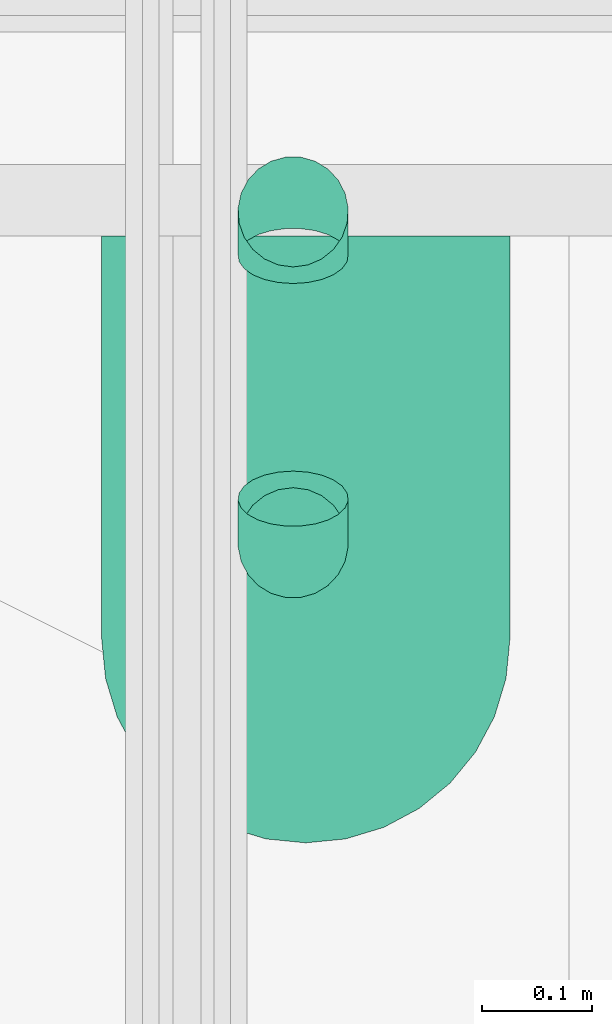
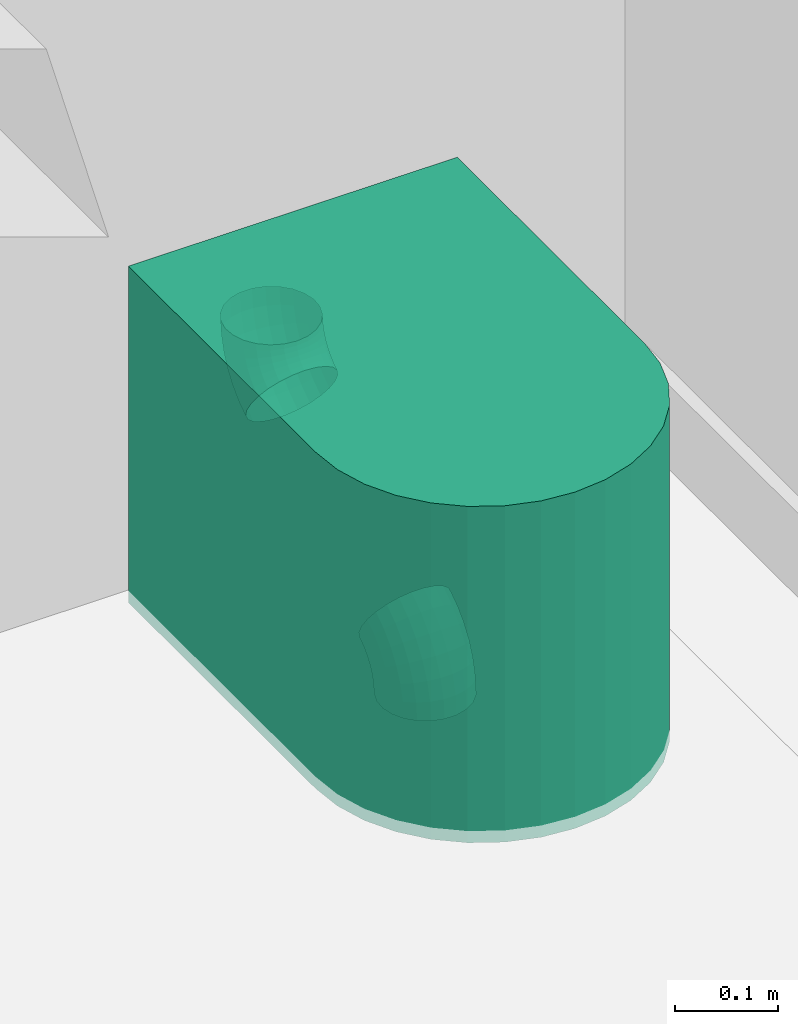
# One storey, part 164 of 169: 2 flow fittings, 1 flow terminal.
"""IFC2X3 building model written with IfcOpenShell, lengths in metres."""

from ifc_helpers import new_model, entity, si_unit, converted_unit, derived_unit, money_unit, direction, frame, origin_with_axes, place, context, subcontext, project, spatial, open_shell, faceted_brep, surface_model, material, type_object, element, save


model = new_model("IFC2X3")

# Units and contexts
model_context = context("Model", 3, precision=1e-05, world=origin_with_axes(), true_north=direction((0.0, 1.0)))
body_context = subcontext(model_context, "Body", "Model", "MODEL_VIEW", scale=1.0)
ifc_project = project(units=[si_unit("LENGTHUNIT", "METRE"), si_unit("AREAUNIT", "SQUARE_METRE"), si_unit("VOLUMEUNIT", "CUBIC_METRE"), si_unit("ABSORBEDDOSEUNIT", "GRAY"), si_unit("AMOUNTOFSUBSTANCEUNIT", "MOLE"), si_unit("DOSEEQUIVALENTUNIT", "SIEVERT"), si_unit("ELECTRICCAPACITANCEUNIT", "FARAD"), si_unit("ELECTRICCHARGEUNIT", "COULOMB"), si_unit("ELECTRICCONDUCTANCEUNIT", "SIEMENS"), si_unit("ELECTRICCURRENTUNIT", "AMPERE"), si_unit("ELECTRICRESISTANCEUNIT", "OHM"), si_unit("ELECTRICVOLTAGEUNIT", "VOLT"), si_unit("ENERGYUNIT", "JOULE"), si_unit("FORCEUNIT", "NEWTON"), si_unit("FREQUENCYUNIT", "HERTZ"), si_unit("ILLUMINANCEUNIT", "LUX"), si_unit("INDUCTANCEUNIT", "HENRY"), si_unit("LUMINOUSFLUXUNIT", "LUMEN"), si_unit("LUMINOUSINTENSITYUNIT", "CANDELA"), si_unit("MAGNETICFLUXDENSITYUNIT", "TESLA"), si_unit("MAGNETICFLUXUNIT", "WEBER"), si_unit("MASSUNIT", "GRAM"), converted_unit("PLANEANGLEUNIT", "degree", entity("IfcReal", 0.0174532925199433), si_unit("PLANEANGLEUNIT", "RADIAN"), dimensions=[0, 0, 0, 0, 0, 0, 0]), si_unit("POWERUNIT", "WATT"), si_unit("PRESSUREUNIT", "PASCAL"), si_unit("RADIOACTIVITYUNIT", "BECQUEREL"), si_unit("SOLIDANGLEUNIT", "STERADIAN"), si_unit("THERMODYNAMICTEMPERATUREUNIT", "KELVIN"), si_unit("TIMEUNIT", "SECOND"), derived_unit("ACCELERATIONUNIT", [(si_unit("LENGTHUNIT", "METRE"), 1), (si_unit("TIMEUNIT", "SECOND"), -2)]), derived_unit("ANGULARVELOCITYUNIT", [(converted_unit("PLANEANGLEUNIT", "degree", entity("IfcReal", 0.0174532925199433), si_unit("PLANEANGLEUNIT", "RADIAN"), dimensions=[0, 0, 0, 0, 0, 0, 0]), 1), (si_unit("TIMEUNIT", "SECOND"), -1)]), derived_unit("CURVATUREUNIT", [(converted_unit("PLANEANGLEUNIT", "degree", entity("IfcReal", 0.0174532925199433), si_unit("PLANEANGLEUNIT", "RADIAN"), dimensions=[0, 0, 0, 0, 0, 0, 0]), 1), (si_unit("LENGTHUNIT", "METRE"), -1)]), derived_unit("DYNAMICVISCOSITYUNIT", [(si_unit("PRESSUREUNIT", "PASCAL"), 1), (si_unit("TIMEUNIT", "SECOND"), 1)]), derived_unit("HEATFLUXDENSITYUNIT", [(si_unit("POWERUNIT", "WATT"), 1), (si_unit("LENGTHUNIT", "METRE"), -2)]), derived_unit("HEATINGVALUEUNIT", [(si_unit("ENERGYUNIT", "JOULE"), 1), (si_unit("MASSUNIT", "GRAM"), -1)]), derived_unit("INTEGERCOUNTRATEUNIT", [(si_unit("TIMEUNIT", "SECOND"), -1)]), derived_unit("IONCONCENTRATIONUNIT", [(si_unit("MASSUNIT", "GRAM"), 1), (si_unit("VOLUMEUNIT", "CUBIC_METRE"), -1)]), derived_unit("ISOTHERMALMOISTURECAPACITYUNIT", [(si_unit("VOLUMEUNIT", "CUBIC_METRE"), 1), (si_unit("MASSUNIT", "GRAM"), -1)]), derived_unit("KINEMATICVISCOSITYUNIT", [(si_unit("AREAUNIT", "SQUARE_METRE"), 1), (si_unit("TIMEUNIT", "SECOND"), -1)]), derived_unit("LINEARFORCEUNIT", [(si_unit("FORCEUNIT", "NEWTON"), 1), (si_unit("LENGTHUNIT", "METRE"), -1)]), derived_unit("LINEARMOMENTUNIT", [(si_unit("FORCEUNIT", "NEWTON"), 1), (si_unit("LENGTHUNIT", "METRE"), -1)]), derived_unit("LINEARSTIFFNESSUNIT", [(si_unit("FORCEUNIT", "NEWTON"), 1), (si_unit("LENGTHUNIT", "METRE"), -1)]), derived_unit("LINEARVELOCITYUNIT", [(si_unit("LENGTHUNIT", "METRE"), 1), (si_unit("TIMEUNIT", "SECOND"), -1)]), derived_unit("LUMINOUSINTENSITYDISTRIBUTIONUNIT", [(si_unit("LUMINOUSINTENSITYUNIT", "CANDELA"), 1), (si_unit("LUMINOUSFLUXUNIT", "LUMEN"), -1)]), derived_unit("MASSDENSITYUNIT", [(si_unit("MASSUNIT", "GRAM"), 1), (si_unit("VOLUMEUNIT", "CUBIC_METRE"), -1)]), derived_unit("MASSFLOWRATEUNIT", [(si_unit("MASSUNIT", "GRAM"), 1), (si_unit("TIMEUNIT", "SECOND"), -1)]), derived_unit("MASSPERLENGTHUNIT", [(si_unit("MASSUNIT", "GRAM"), 1), (si_unit("LENGTHUNIT", "METRE"), -1)]), derived_unit("MODULUSOFELASTICITYUNIT", [(si_unit("FORCEUNIT", "NEWTON"), 1), (si_unit("AREAUNIT", "SQUARE_METRE"), -1)]), derived_unit("MODULUSOFLINEARSUBGRADEREACTIONUNIT", [(si_unit("FORCEUNIT", "NEWTON"), 1), (si_unit("LENGTHUNIT", "METRE"), -2)]), derived_unit("MODULUSOFROTATIONALSUBGRADEREACTIONUNIT", [(si_unit("FORCEUNIT", "NEWTON"), 1), (si_unit("LENGTHUNIT", "METRE"), 1)]), derived_unit("MODULUSOFSUBGRADEREACTIONUNIT", [(si_unit("FORCEUNIT", "NEWTON"), 1), (si_unit("VOLUMEUNIT", "CUBIC_METRE"), -1)]), derived_unit("MOISTUREDIFFUSIVITYUNIT", [(si_unit("VOLUMEUNIT", "CUBIC_METRE"), 1), (si_unit("TIMEUNIT", "SECOND"), -1)]), derived_unit("MOLECULARWEIGHTUNIT", [(si_unit("MASSUNIT", "GRAM"), 1), (si_unit("AMOUNTOFSUBSTANCEUNIT", "MOLE"), -1)]), derived_unit("PLANARFORCEUNIT", [(si_unit("FORCEUNIT", "NEWTON"), 1), (si_unit("LENGTHUNIT", "METRE"), -2)]), derived_unit("ROTATIONALFREQUENCYUNIT", [(si_unit("TIMEUNIT", "SECOND"), -1)]), derived_unit("ROTATIONALMASSUNIT", [(si_unit("MASSUNIT", "GRAM"), 1), (si_unit("LENGTHUNIT", "METRE"), 2)]), derived_unit("ROTATIONALSTIFFNESSUNIT", [(si_unit("FORCEUNIT", "NEWTON"), 1), (si_unit("LENGTHUNIT", "METRE"), 1), (converted_unit("PLANEANGLEUNIT", "degree", entity("IfcReal", 0.0174532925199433), si_unit("PLANEANGLEUNIT", "RADIAN"), dimensions=[0, 0, 0, 0, 0, 0, 0]), -1)]), derived_unit("SECTIONAREAINTEGRALUNIT", [(si_unit("LENGTHUNIT", "METRE"), 5)]), derived_unit("SECTIONMODULUSUNIT", [(si_unit("LENGTHUNIT", "METRE"), 3)]), derived_unit("SHEARMODULUSUNIT", [(si_unit("FORCEUNIT", "NEWTON"), 1), (si_unit("AREAUNIT", "SQUARE_METRE"), -1)]), derived_unit("SOUNDPOWERUNIT", [(si_unit("ENERGYUNIT", "JOULE"), 1), (si_unit("TIMEUNIT", "SECOND"), -1)]), derived_unit("SPECIFICHEATCAPACITYUNIT", [(si_unit("FORCEUNIT", "NEWTON"), 1), (si_unit("MASSUNIT", "GRAM"), -1), (si_unit("THERMODYNAMICTEMPERATUREUNIT", "KELVIN"), -1)]), derived_unit("TEMPERATUREGRADIENTUNIT", [(si_unit("THERMODYNAMICTEMPERATUREUNIT", "KELVIN"), 1), (si_unit("LENGTHUNIT", "METRE"), -1)]), derived_unit("THERMALADMITTANCEUNIT", [(si_unit("POWERUNIT", "WATT"), 1), (si_unit("AREAUNIT", "SQUARE_METRE"), -1), (si_unit("THERMODYNAMICTEMPERATUREUNIT", "KELVIN"), -1)]), derived_unit("THERMALCONDUCTANCEUNIT", [(si_unit("POWERUNIT", "WATT"), 1), (si_unit("LENGTHUNIT", "METRE"), -1), (si_unit("THERMODYNAMICTEMPERATUREUNIT", "KELVIN"), -1)]), derived_unit("THERMALEXPANSIONCOEFFICIENTUNIT", [(si_unit("THERMODYNAMICTEMPERATUREUNIT", "KELVIN"), -1)]), derived_unit("THERMALRESISTANCEUNIT", [(si_unit("AREAUNIT", "SQUARE_METRE"), 1), (si_unit("POWERUNIT", "WATT"), -1)]), derived_unit("THERMALTRANSMITTANCEUNIT", [(si_unit("POWERUNIT", "WATT"), 1), (si_unit("AREAUNIT", "SQUARE_METRE"), -1), (si_unit("THERMODYNAMICTEMPERATUREUNIT", "KELVIN"), -1)]), derived_unit("TORQUEUNIT", [(si_unit("FORCEUNIT", "NEWTON"), 1), (si_unit("LENGTHUNIT", "METRE"), 1)]), derived_unit("VAPORPERMEABILITYUNIT", [(si_unit("MASSUNIT", "GRAM"), 1), (si_unit("TIMEUNIT", "SECOND"), -1)]), derived_unit("VOLUMETRICFLOWRATEUNIT", [(si_unit("VOLUMEUNIT", "CUBIC_METRE"), 1), (si_unit("TIMEUNIT", "SECOND"), -1)]), derived_unit("WARPINGCONSTANTUNIT", [(si_unit("LENGTHUNIT", "METRE"), 6)]), derived_unit("WARPINGMOMENTUNIT", [(si_unit("FORCEUNIT", "NEWTON"), 1), (si_unit("LENGTHUNIT", "METRE"), 2)]), money_unit("GBP")], contexts=[model_context])

# Site, building, storey, space
site_placement = place(None, origin_with_axes())
site = spatial("IfcSite", under=ifc_project, at=site_placement, Name="Site", CompositionType="ELEMENT")
building_placement = place(site_placement, origin_with_axes())
building = spatial("IfcBuilding", under=site, at=building_placement, Name="Building01", CompositionType="ELEMENT")
storey_placement = place(building_placement, frame((0.0, 0.0, 5.15), z_axis=(0.0, 0.0, 1.0), x_axis=(1.0, 0.0, 0.0)))
storey = spatial("IfcBuildingStorey", under=building, at=storey_placement, Name="1F", CompositionType="ELEMENT", Elevation=5.15)
space_1_placement = place(storey_placement, frame((20.122661, 7.25, 0.017975), z_axis=(0.0, 0.0, 1.0), x_axis=(1.0, 0.0, 0.0)))
space_1 = spatial("IfcSpace", under=storey, at=space_1_placement, Name="bath", CompositionType="ELEMENT", InteriorOrExteriorSpace="NOTDEFINED")

# Flow fitting
ifc_material = material(Name="M_BSUK_ColdWater")
pipe_fitting_type = type_object("IfcPipeFittingType", Name="M-BmpElbow-DefaultElbow", PredefinedType="BEND")
placement = place(building_placement, origin_with_axes())
flow_fitting_1_placement = place(placement, frame((22.076661, 8.116912, 5.151637), z_axis=(0.0, -1.0, 0.0), x_axis=(0.0, 0.0, 1.0)))
element("IfcFlowFitting", 1, at=flow_fitting_1_placement, inside=space_1, type_object=pipe_fitting_type, material=ifc_material, Name="M-BmpElbow-DefaultElbow", ObjectType="M-BmpElbow-DefaultElbow", context=body_context, shape_type="SurfaceModel", body=[
    surface_model("IfcShellBasedSurfaceModel", [(0.005531, -0.01349, -0.04863), (0.0, -0.01349, -0.048146), (0.0, 0.0, -0.05), (0.005209, 0.0, -0.050456), (0.010895, -0.01349, -0.050067), (0.010261, 0.0, -0.051809), (0.015927, -0.01349, -0.052414), (0.015, 0.0, -0.054019), (0.020475, -0.01349, -0.055598), (0.019284, 0.0, -0.057019), (0.024402, -0.01349, -0.059525), (0.022981, 0.0, -0.060716), (0.027586, -0.01349, -0.064073), (0.025981, 0.0, -0.065), (0.006473, -0.025979, -0.043287), (0.0, -0.025979, -0.042721), (0.01275, -0.025979, -0.044969), (0.01864, -0.025979, -0.047715), (0.023962, -0.025979, -0.051443), (0.028557, -0.025979, -0.056038), (0.032285, -0.025979, -0.06136), (0.007966, -0.036542, -0.034825), (0.0, -0.036542, -0.034128), (0.015689, -0.036542, -0.036894), (0.022936, -0.036542, -0.040273), (0.029486, -0.036542, -0.04486), (0.03514, -0.036542, -0.050514), (0.039727, -0.036542, -0.057064), (0.009897, -0.044394, -0.023869), (0.0, -0.044394, -0.023003), (0.019494, -0.044394, -0.026441), (0.028498, -0.044394, -0.030639), (0.036637, -0.044394, -0.036338), (0.043662, -0.044394, -0.043363), (0.049361, -0.044394, -0.051502), (0.012125, -0.048954, -0.011234), (0.0, -0.048954, -0.010173), (0.023882, -0.048954, -0.014384), (0.034914, -0.048954, -0.019528), (0.044884, -0.048954, -0.026509), (0.053491, -0.048954, -0.035116), (0.060472, -0.048954, -0.045086), (0.014484, -0.049883, 0.002145), (0.0, -0.049883, 0.003412), (0.028529, -0.049883, -0.001618), (0.041706, -0.049883, -0.007763), (0.053616, -0.049883, -0.016103), (0.063897, -0.049883, -0.026384), (0.072237, -0.049883, -0.038294), (0.016799, -0.047113, 0.015274), (0.0, -0.047113, 0.016744), (0.033088, -0.047113, 0.01091), (0.048372, -0.047113, 0.003783), (0.062186, -0.047113, -0.00589), (0.07411, -0.047113, -0.017814), (0.083783, -0.047113, -0.031628), (0.018899, -0.040848, 0.027181), (0.0, -0.040848, 0.028834), (0.037223, -0.040848, 0.022271), (0.054417, -0.040848, 0.014253), (0.069957, -0.040848, 0.003372), (0.083372, -0.040848, -0.010043), (0.094253, -0.040848, -0.025583), (0.020627, -0.031554, 0.036981), (0.0, -0.031554, 0.038786), (0.040627, -0.031554, 0.031622), (0.059393, -0.031554, 0.022871), (0.076354, -0.031554, 0.010995), (0.090995, -0.031554, -0.003646), (0.102871, -0.031554, -0.020607), (0.021855, -0.01992, 0.043948), (0.0, -0.01992, 0.045861), (0.043047, -0.01992, 0.03827), (0.06293, -0.01992, 0.028998), (0.080902, -0.01992, 0.016415), (0.096415, -0.01992, 0.000902), (0.108998, -0.01992, -0.01707), (0.022493, -0.006808, 0.047566), (0.0, -0.006808, 0.049534), (0.044303, -0.006808, 0.041722), (0.064767, -0.006808, 0.03218), (0.083263, -0.006808, 0.019229), (0.099229, -0.006808, 0.003263), (0.11218, -0.006808, -0.015233), (0.022493, 0.006808, 0.047566), (0.0, 0.006808, 0.049534), (0.044303, 0.006808, 0.041722), (0.064767, 0.006808, 0.03218), (0.083263, 0.006808, 0.019229), (0.099229, 0.006808, 0.003263), (0.11218, 0.006808, -0.015233), (0.021855, 0.01992, 0.043948), (0.0, 0.01992, 0.045861), (0.043047, 0.01992, 0.03827), (0.06293, 0.01992, 0.028998), (0.080902, 0.01992, 0.016415), (0.096415, 0.01992, 0.000902), (0.108998, 0.01992, -0.01707), (0.020627, 0.031554, 0.036981), (0.0, 0.031554, 0.038786), (0.040627, 0.031554, 0.031622), (0.059393, 0.031554, 0.022871), (0.076354, 0.031554, 0.010995), (0.090995, 0.031554, -0.003646), (0.102871, 0.031554, -0.020607), (0.018899, 0.040848, 0.027181), (0.0, 0.040848, 0.028834), (0.037223, 0.040848, 0.022271), (0.054417, 0.040848, 0.014253), (0.069957, 0.040848, 0.003372), (0.083372, 0.040848, -0.010043), (0.094253, 0.040848, -0.025583), (0.016799, 0.047113, 0.015274), (0.0, 0.047113, 0.016744), (0.033088, 0.047113, 0.01091), (0.048372, 0.047113, 0.003783), (0.062186, 0.047113, -0.00589), (0.07411, 0.047113, -0.017814), (0.083783, 0.047113, -0.031628), (0.014484, 0.049883, 0.002145), (0.0, 0.049883, 0.003412), (0.028529, 0.049883, -0.001618), (0.041706, 0.049883, -0.007763), (0.053616, 0.049883, -0.016103), (0.063897, 0.049883, -0.026384), (0.072237, 0.049883, -0.038294), (0.012125, 0.048954, -0.011234), (0.0, 0.048954, -0.010173), (0.023882, 0.048954, -0.014384), (0.034914, 0.048954, -0.019528), (0.044884, 0.048954, -0.026509), (0.053491, 0.048954, -0.035116), (0.060472, 0.048954, -0.045086), (0.009897, 0.044394, -0.023869), (0.0, 0.044394, -0.023003), (0.019494, 0.044394, -0.026441), (0.028498, 0.044394, -0.030639), (0.036637, 0.044394, -0.036338), (0.043662, 0.044394, -0.043363), (0.049361, 0.044394, -0.051502), (0.007966, 0.036542, -0.034825), (0.0, 0.036542, -0.034128), (0.015689, 0.036542, -0.036894), (0.022936, 0.036542, -0.040273), (0.029486, 0.036542, -0.04486), (0.03514, 0.036542, -0.050514), (0.039727, 0.036542, -0.057064), (0.006473, 0.025979, -0.043287), (0.0, 0.025979, -0.042721), (0.01275, 0.025979, -0.044969), (0.01864, 0.025979, -0.047715), (0.023962, 0.025979, -0.051443), (0.028557, 0.025979, -0.056038), (0.032285, 0.025979, -0.06136), (0.005531, 0.01349, -0.04863), (0.0, 0.01349, -0.048146), (0.010895, 0.01349, -0.050067), (0.015927, 0.01349, -0.052414), (0.020475, 0.01349, -0.055598), (0.024402, 0.01349, -0.059525), (0.027586, 0.01349, -0.064073)], [open_shell([[[0, 1, 2, 3]], [[4, 0, 3, 5]], [[6, 4, 5, 7]], [[8, 6, 7, 9]], [[10, 8, 9, 11]], [[12, 10, 11, 13]], [[14, 15, 1, 0]], [[16, 14, 0, 4]], [[17, 16, 4, 6]], [[18, 17, 6, 8]], [[19, 18, 8, 10]], [[20, 19, 10, 12]], [[21, 22, 15, 14]], [[23, 21, 14, 16]], [[24, 23, 16, 17]], [[25, 24, 17, 18]], [[26, 25, 18, 19]], [[27, 26, 19, 20]], [[28, 29, 22, 21]], [[30, 28, 21, 23]], [[31, 30, 23, 24]], [[32, 31, 24, 25]], [[33, 32, 25, 26]], [[34, 33, 26, 27]], [[35, 36, 29, 28]], [[37, 35, 28, 30]], [[38, 37, 30, 31]], [[39, 38, 31, 32]], [[40, 39, 32, 33]], [[41, 40, 33, 34]], [[42, 43, 36, 35]], [[44, 42, 35, 37]], [[45, 44, 37, 38]], [[46, 45, 38, 39]], [[47, 46, 39, 40]], [[48, 47, 40, 41]], [[49, 50, 43, 42]], [[51, 49, 42, 44]], [[52, 51, 44, 45]], [[53, 52, 45, 46]], [[54, 53, 46, 47]], [[55, 54, 47, 48]], [[56, 57, 50, 49]], [[58, 56, 49, 51]], [[59, 58, 51, 52]], [[60, 59, 52, 53]], [[61, 60, 53, 54]], [[62, 61, 54, 55]], [[63, 64, 57, 56]], [[65, 63, 56, 58]], [[66, 65, 58, 59]], [[67, 66, 59, 60]], [[68, 67, 60, 61]], [[69, 68, 61, 62]], [[70, 71, 64, 63]], [[72, 70, 63, 65]], [[73, 72, 65, 66]], [[74, 73, 66, 67]], [[75, 74, 67, 68]], [[76, 75, 68, 69]], [[77, 78, 71, 70]], [[79, 77, 70, 72]], [[80, 79, 72, 73]], [[81, 80, 73, 74]], [[82, 81, 74, 75]], [[83, 82, 75, 76]], [[84, 85, 78, 77]], [[86, 84, 77, 79]], [[87, 86, 79, 80]], [[88, 87, 80, 81]], [[89, 88, 81, 82]], [[90, 89, 82, 83]], [[91, 92, 85, 84]], [[93, 91, 84, 86]], [[94, 93, 86, 87]], [[95, 94, 87, 88]], [[96, 95, 88, 89]], [[97, 96, 89, 90]], [[98, 99, 92, 91]], [[100, 98, 91, 93]], [[101, 100, 93, 94]], [[102, 101, 94, 95]], [[103, 102, 95, 96]], [[104, 103, 96, 97]], [[105, 106, 99, 98]], [[107, 105, 98, 100]], [[108, 107, 100, 101]], [[109, 108, 101, 102]], [[110, 109, 102, 103]], [[111, 110, 103, 104]], [[112, 113, 106, 105]], [[114, 112, 105, 107]], [[115, 114, 107, 108]], [[116, 115, 108, 109]], [[117, 116, 109, 110]], [[118, 117, 110, 111]], [[119, 120, 113, 112]], [[121, 119, 112, 114]], [[122, 121, 114, 115]], [[123, 122, 115, 116]], [[124, 123, 116, 117]], [[125, 124, 117, 118]], [[126, 127, 120, 119]], [[128, 126, 119, 121]], [[129, 128, 121, 122]], [[130, 129, 122, 123]], [[131, 130, 123, 124]], [[132, 131, 124, 125]], [[133, 134, 127, 126]], [[135, 133, 126, 128]], [[136, 135, 128, 129]], [[137, 136, 129, 130]], [[138, 137, 130, 131]], [[139, 138, 131, 132]], [[140, 141, 134, 133]], [[142, 140, 133, 135]], [[143, 142, 135, 136]], [[144, 143, 136, 137]], [[145, 144, 137, 138]], [[146, 145, 138, 139]], [[147, 148, 141, 140]], [[149, 147, 140, 142]], [[150, 149, 142, 143]], [[151, 150, 143, 144]], [[152, 151, 144, 145]], [[153, 152, 145, 146]], [[154, 155, 148, 147]], [[156, 154, 147, 149]], [[157, 156, 149, 150]], [[158, 157, 150, 151]], [[159, 158, 151, 152]], [[160, 159, 152, 153]], [[3, 2, 155, 154]], [[5, 3, 154, 156]], [[7, 5, 156, 157]], [[9, 7, 157, 158]], [[11, 9, 158, 159]], [[13, 11, 159, 160]]])]),
])

# Space
space_2_placement = place(storey_placement, frame((20.122661, 5.205, 0.017975), z_axis=(0.0, 0.0, 1.0), x_axis=(1.0, 0.0, 0.0)))
space_2 = spatial("IfcSpace", under=storey, at=space_2_placement, Name="03", CompositionType="ELEMENT", InteriorOrExteriorSpace="NOTDEFINED")

# Flow fitting
flow_fitting_2_placement = place(placement, frame((22.076661, 8.376912, 5.347936), z_axis=(0.0, 0.5, -0.8660254), x_axis=(0.0, 0.8660254, 0.5)))
element("IfcFlowFitting", 2, at=flow_fitting_2_placement, inside=space_2, type_object=pipe_fitting_type, material=ifc_material, Name="M-BmpElbow-DefaultElbow", ObjectType="M-BmpElbow-DefaultElbow", context=body_context, shape_type="SurfaceModel", body=[
    surface_model("IfcShellBasedSurfaceModel", [(0.005531, -0.01349, -0.04863), (0.0, -0.01349, -0.048146), (0.0, 0.0, -0.05), (0.005209, 0.0, -0.050456), (0.010895, -0.01349, -0.050067), (0.010261, 0.0, -0.051809), (0.015927, -0.01349, -0.052414), (0.015, 0.0, -0.054019), (0.020475, -0.01349, -0.055598), (0.019284, 0.0, -0.057019), (0.024402, -0.01349, -0.059525), (0.022981, 0.0, -0.060716), (0.027586, -0.01349, -0.064073), (0.025981, 0.0, -0.065), (0.006473, -0.025979, -0.043287), (0.0, -0.025979, -0.042721), (0.01275, -0.025979, -0.044969), (0.01864, -0.025979, -0.047715), (0.023962, -0.025979, -0.051443), (0.028557, -0.025979, -0.056038), (0.032285, -0.025979, -0.06136), (0.007966, -0.036542, -0.034825), (0.0, -0.036542, -0.034128), (0.015689, -0.036542, -0.036894), (0.022936, -0.036542, -0.040273), (0.029486, -0.036542, -0.04486), (0.03514, -0.036542, -0.050514), (0.039727, -0.036542, -0.057064), (0.009897, -0.044394, -0.023869), (0.0, -0.044394, -0.023003), (0.019494, -0.044394, -0.026441), (0.028498, -0.044394, -0.030639), (0.036637, -0.044394, -0.036338), (0.043662, -0.044394, -0.043363), (0.049361, -0.044394, -0.051502), (0.012125, -0.048954, -0.011234), (0.0, -0.048954, -0.010173), (0.023882, -0.048954, -0.014384), (0.034914, -0.048954, -0.019528), (0.044884, -0.048954, -0.026509), (0.053491, -0.048954, -0.035116), (0.060472, -0.048954, -0.045086), (0.014484, -0.049883, 0.002145), (0.0, -0.049883, 0.003412), (0.028529, -0.049883, -0.001618), (0.041706, -0.049883, -0.007763), (0.053616, -0.049883, -0.016103), (0.063897, -0.049883, -0.026384), (0.072237, -0.049883, -0.038294), (0.016799, -0.047113, 0.015274), (0.0, -0.047113, 0.016744), (0.033088, -0.047113, 0.01091), (0.048372, -0.047113, 0.003783), (0.062186, -0.047113, -0.00589), (0.07411, -0.047113, -0.017814), (0.083783, -0.047113, -0.031628), (0.018899, -0.040848, 0.027181), (0.0, -0.040848, 0.028834), (0.037223, -0.040848, 0.022271), (0.054417, -0.040848, 0.014253), (0.069957, -0.040848, 0.003372), (0.083372, -0.040848, -0.010043), (0.094253, -0.040848, -0.025583), (0.020627, -0.031554, 0.036981), (0.0, -0.031554, 0.038786), (0.040627, -0.031554, 0.031622), (0.059393, -0.031554, 0.022871), (0.076354, -0.031554, 0.010995), (0.090995, -0.031554, -0.003646), (0.102871, -0.031554, -0.020607), (0.021855, -0.01992, 0.043948), (0.0, -0.01992, 0.045861), (0.043047, -0.01992, 0.03827), (0.06293, -0.01992, 0.028998), (0.080902, -0.01992, 0.016415), (0.096415, -0.01992, 0.000902), (0.108998, -0.01992, -0.01707), (0.022493, -0.006808, 0.047566), (0.0, -0.006808, 0.049534), (0.044303, -0.006808, 0.041722), (0.064767, -0.006808, 0.03218), (0.083263, -0.006808, 0.019229), (0.099229, -0.006808, 0.003263), (0.11218, -0.006808, -0.015233), (0.022493, 0.006808, 0.047566), (0.0, 0.006808, 0.049534), (0.044303, 0.006808, 0.041722), (0.064767, 0.006808, 0.03218), (0.083263, 0.006808, 0.019229), (0.099229, 0.006808, 0.003263), (0.11218, 0.006808, -0.015233), (0.021855, 0.01992, 0.043948), (0.0, 0.01992, 0.045861), (0.043047, 0.01992, 0.03827), (0.06293, 0.01992, 0.028998), (0.080902, 0.01992, 0.016415), (0.096415, 0.01992, 0.000902), (0.108998, 0.01992, -0.01707), (0.020627, 0.031554, 0.036981), (0.0, 0.031554, 0.038786), (0.040627, 0.031554, 0.031622), (0.059393, 0.031554, 0.022871), (0.076354, 0.031554, 0.010995), (0.090995, 0.031554, -0.003646), (0.102871, 0.031554, -0.020607), (0.018899, 0.040848, 0.027181), (0.0, 0.040848, 0.028834), (0.037223, 0.040848, 0.022271), (0.054417, 0.040848, 0.014253), (0.069957, 0.040848, 0.003372), (0.083372, 0.040848, -0.010043), (0.094253, 0.040848, -0.025583), (0.016799, 0.047113, 0.015274), (0.0, 0.047113, 0.016744), (0.033088, 0.047113, 0.01091), (0.048372, 0.047113, 0.003783), (0.062186, 0.047113, -0.00589), (0.07411, 0.047113, -0.017814), (0.083783, 0.047113, -0.031628), (0.014484, 0.049883, 0.002145), (0.0, 0.049883, 0.003412), (0.028529, 0.049883, -0.001618), (0.041706, 0.049883, -0.007763), (0.053616, 0.049883, -0.016103), (0.063897, 0.049883, -0.026384), (0.072237, 0.049883, -0.038294), (0.012125, 0.048954, -0.011234), (0.0, 0.048954, -0.010173), (0.023882, 0.048954, -0.014384), (0.034914, 0.048954, -0.019528), (0.044884, 0.048954, -0.026509), (0.053491, 0.048954, -0.035116), (0.060472, 0.048954, -0.045086), (0.009897, 0.044394, -0.023869), (0.0, 0.044394, -0.023003), (0.019494, 0.044394, -0.026441), (0.028498, 0.044394, -0.030639), (0.036637, 0.044394, -0.036338), (0.043662, 0.044394, -0.043363), (0.049361, 0.044394, -0.051502), (0.007966, 0.036542, -0.034825), (0.0, 0.036542, -0.034128), (0.015689, 0.036542, -0.036894), (0.022936, 0.036542, -0.040273), (0.029486, 0.036542, -0.04486), (0.03514, 0.036542, -0.050514), (0.039727, 0.036542, -0.057064), (0.006473, 0.025979, -0.043287), (0.0, 0.025979, -0.042721), (0.01275, 0.025979, -0.044969), (0.01864, 0.025979, -0.047715), (0.023962, 0.025979, -0.051443), (0.028557, 0.025979, -0.056038), (0.032285, 0.025979, -0.06136), (0.005531, 0.01349, -0.04863), (0.0, 0.01349, -0.048146), (0.010895, 0.01349, -0.050067), (0.015927, 0.01349, -0.052414), (0.020475, 0.01349, -0.055598), (0.024402, 0.01349, -0.059525), (0.027586, 0.01349, -0.064073)], [open_shell([[[0, 1, 2, 3]], [[4, 0, 3, 5]], [[6, 4, 5, 7]], [[8, 6, 7, 9]], [[10, 8, 9, 11]], [[12, 10, 11, 13]], [[14, 15, 1, 0]], [[16, 14, 0, 4]], [[17, 16, 4, 6]], [[18, 17, 6, 8]], [[19, 18, 8, 10]], [[20, 19, 10, 12]], [[21, 22, 15, 14]], [[23, 21, 14, 16]], [[24, 23, 16, 17]], [[25, 24, 17, 18]], [[26, 25, 18, 19]], [[27, 26, 19, 20]], [[28, 29, 22, 21]], [[30, 28, 21, 23]], [[31, 30, 23, 24]], [[32, 31, 24, 25]], [[33, 32, 25, 26]], [[34, 33, 26, 27]], [[35, 36, 29, 28]], [[37, 35, 28, 30]], [[38, 37, 30, 31]], [[39, 38, 31, 32]], [[40, 39, 32, 33]], [[41, 40, 33, 34]], [[42, 43, 36, 35]], [[44, 42, 35, 37]], [[45, 44, 37, 38]], [[46, 45, 38, 39]], [[47, 46, 39, 40]], [[48, 47, 40, 41]], [[49, 50, 43, 42]], [[51, 49, 42, 44]], [[52, 51, 44, 45]], [[53, 52, 45, 46]], [[54, 53, 46, 47]], [[55, 54, 47, 48]], [[56, 57, 50, 49]], [[58, 56, 49, 51]], [[59, 58, 51, 52]], [[60, 59, 52, 53]], [[61, 60, 53, 54]], [[62, 61, 54, 55]], [[63, 64, 57, 56]], [[65, 63, 56, 58]], [[66, 65, 58, 59]], [[67, 66, 59, 60]], [[68, 67, 60, 61]], [[69, 68, 61, 62]], [[70, 71, 64, 63]], [[72, 70, 63, 65]], [[73, 72, 65, 66]], [[74, 73, 66, 67]], [[75, 74, 67, 68]], [[76, 75, 68, 69]], [[77, 78, 71, 70]], [[79, 77, 70, 72]], [[80, 79, 72, 73]], [[81, 80, 73, 74]], [[82, 81, 74, 75]], [[83, 82, 75, 76]], [[84, 85, 78, 77]], [[86, 84, 77, 79]], [[87, 86, 79, 80]], [[88, 87, 80, 81]], [[89, 88, 81, 82]], [[90, 89, 82, 83]], [[91, 92, 85, 84]], [[93, 91, 84, 86]], [[94, 93, 86, 87]], [[95, 94, 87, 88]], [[96, 95, 88, 89]], [[97, 96, 89, 90]], [[98, 99, 92, 91]], [[100, 98, 91, 93]], [[101, 100, 93, 94]], [[102, 101, 94, 95]], [[103, 102, 95, 96]], [[104, 103, 96, 97]], [[105, 106, 99, 98]], [[107, 105, 98, 100]], [[108, 107, 100, 101]], [[109, 108, 101, 102]], [[110, 109, 102, 103]], [[111, 110, 103, 104]], [[112, 113, 106, 105]], [[114, 112, 105, 107]], [[115, 114, 107, 108]], [[116, 115, 108, 109]], [[117, 116, 109, 110]], [[118, 117, 110, 111]], [[119, 120, 113, 112]], [[121, 119, 112, 114]], [[122, 121, 114, 115]], [[123, 122, 115, 116]], [[124, 123, 116, 117]], [[125, 124, 117, 118]], [[126, 127, 120, 119]], [[128, 126, 119, 121]], [[129, 128, 121, 122]], [[130, 129, 122, 123]], [[131, 130, 123, 124]], [[132, 131, 124, 125]], [[133, 134, 127, 126]], [[135, 133, 126, 128]], [[136, 135, 128, 129]], [[137, 136, 129, 130]], [[138, 137, 130, 131]], [[139, 138, 131, 132]], [[140, 141, 134, 133]], [[142, 140, 133, 135]], [[143, 142, 135, 136]], [[144, 143, 136, 137]], [[145, 144, 137, 138]], [[146, 145, 138, 139]], [[147, 148, 141, 140]], [[149, 147, 140, 142]], [[150, 149, 142, 143]], [[151, 150, 143, 144]], [[152, 151, 144, 145]], [[153, 152, 145, 146]], [[154, 155, 148, 147]], [[156, 154, 147, 149]], [[157, 156, 149, 150]], [[158, 157, 150, 151]], [[159, 158, 151, 152]], [[160, 159, 152, 153]], [[3, 2, 155, 154]], [[5, 3, 154, 156]], [[7, 5, 156, 157]], [[9, 7, 157, 158]], [[11, 9, 158, 159]], [[13, 11, 159, 160]]])]),
])

# Flow terminal
sanitary_terminal_type = type_object("IfcSanitaryTerminalType", Name="SHE_A-Toilet_base", PredefinedType="NOTDEFINED")
flow_terminal_placement = place(storey_placement, frame((22.088153, 8.119998, 0.2), z_axis=(0.0, 0.0, 1.0), x_axis=(0.0, -1.0, 0.0)))
element("IfcFlowTerminal", 3, at=flow_terminal_placement, inside=space_2, type_object=sanitary_terminal_type, Name="03", ObjectType="SHE_A-Toilet_base", context=body_context, shape_type="Brep", body=[
    faceted_brep([(0.089995, 0.185008, -0.2), (0.126088, 0.181454, -0.2), (0.160795, 0.170926, -0.2), (0.19278, 0.153829, -0.2), (0.220816, 0.130821, -0.2), (0.243824, 0.102785, -0.2), (0.26092, 0.0708, -0.2), (0.271448, 0.036093, -0.2), (0.275003, 0.0, -0.2), (0.271448, -0.036093, -0.2), (0.26092, -0.0708, -0.2), (0.243824, -0.102785, -0.2), (0.220816, -0.130821, -0.2), (0.19278, -0.153829, -0.2), (0.160795, -0.170926, -0.2), (0.126088, -0.181454, -0.2), (0.089995, -0.185009, -0.2), (-0.275003, -0.185009, -0.2), (-0.275003, 0.185008, -0.2), (-0.275003, 0.185008, 0.2), (-0.275003, -0.185009, 0.2), (0.089995, -0.185009, 0.2), (0.126088, -0.181454, 0.2), (0.160795, -0.170926, 0.2), (0.19278, -0.153829, 0.2), (0.220816, -0.130821, 0.2), (0.243824, -0.102785, 0.2), (0.26092, -0.0708, 0.2), (0.271448, -0.036093, 0.2), (0.275003, 0.0, 0.2), (0.271448, 0.036093, 0.2), (0.26092, 0.0708, 0.2), (0.243824, 0.102785, 0.2), (0.220816, 0.130821, 0.2), (0.19278, 0.153829, 0.2), (0.160795, 0.170926, 0.2), (0.126088, 0.181454, 0.2), (0.089995, 0.185008, 0.2)], [[[0, 1, 2, 3, 4, 5, 6, 7, 8, 9, 10, 11, 12, 13, 14, 15, 16, 17, 18]], [[19, 20, 21, 22, 23, 24, 25, 26, 27, 28, 29, 30, 31, 32, 33, 34, 35, 36, 37]], [[15, 22, 21, 16]], [[14, 23, 22, 15]], [[13, 24, 23, 14]], [[12, 25, 24, 13]], [[11, 26, 25, 12]], [[10, 27, 26, 11]], [[9, 28, 27, 10]], [[8, 29, 28, 9]], [[7, 30, 29, 8]], [[6, 31, 30, 7]], [[5, 32, 31, 6]], [[4, 33, 32, 5]], [[3, 34, 33, 4]], [[2, 35, 34, 3]], [[1, 36, 35, 2]], [[0, 37, 36, 1]], [[16, 21, 20, 17]], [[17, 20, 19, 18]], [[18, 19, 37, 0]]]),
])

save(model, "model.ifc")
